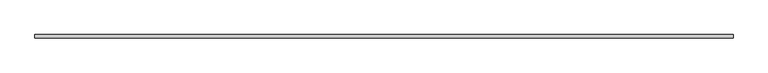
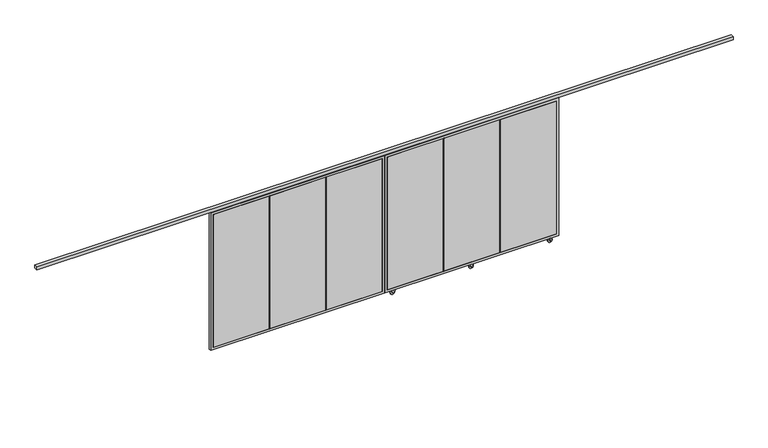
"""IFC4 building model written with IfcOpenShell, lengths in millimetres: furniture geometry, H01 Portón corredizo : H01 Porton corredizo 721x315."""

import ifcopenshell
import ifcopenshell.guid

model = None  # the IFC model being written
_history = None  # IfcOwnerHistory: only IFC2X3 demands one
_inside = {}  # id of a spatial element -> (the spatial element, [elements in it])
_under = {}  # id of a project, library or spatial element -> (it, [spatial elements below it])
_declared = {}  # id of a project -> (the project, [libraries it declares])
_typed = {}  # id of a type object -> (the type object, [elements of that type])
_made_of = {}  # id of a material, layer set ... -> (it, [elements and type objects made of it])


def new_model(schema):
    """Start an empty IFC model of exactly this schema.

    Asked for "IFC4X3", IfcOpenShell would pick the latest addendum, in which some entities
    have other attributes; the version numbers below select the first issue.
    IFC2X3 requires an IfcOwnerHistory on every rooted entity: one is made here for all.
    """
    global model, _history
    if schema == "IFC4X3":
        model = ifcopenshell.file(schema_version=(4, 3, 0, 0))
    else:
        model = ifcopenshell.file(schema=schema)
    _inside.clear()
    _under.clear()
    _declared.clear()
    _typed.clear()
    _made_of.clear()
    _history = None
    if model.schema == "IFC2X3":
        org = make("IfcOrganization", Name="unknown")
        user = make(
            "IfcPersonAndOrganization",
            ThePerson=make("IfcPerson", FamilyName="unknown"),
            TheOrganization=org,
        )
        app = make(
            "IfcApplication",
            ApplicationDeveloper=org,
            Version="unknown",
            ApplicationFullName="unknown",
            ApplicationIdentifier="unknown",
        )
        _history = make(
            "IfcOwnerHistory",
            OwningUser=user,
            OwningApplication=app,
            ChangeAction="ADDED",
            CreationDate=0,
        )
    return model


def make(cls, **values):
    """One entity of the class cls with the attributes given. An attribute that is None is left unset."""
    return model.create_entity(
        cls, **{name: value for name, value in values.items() if value is not None}
    )


def rooted(cls, **values):
    """An entity with a GlobalId (a new one), such as an element, a storey or a relation."""
    return make(cls, GlobalId=ifcopenshell.guid.new(), OwnerHistory=_history, **values)


def si_unit(unit_type, name, prefix=None):
    """IfcSIUnit, for example si_unit("LENGTHUNIT", "METRE", prefix="MILLI")."""
    return make("IfcSIUnit", UnitType=unit_type, Prefix=prefix, Name=name)


def assignment(units):
    """IfcUnitAssignment: the units of a project."""
    return None if units is None else make("IfcUnitAssignment", Units=units)


def point(xyz):
    """IfcCartesianPoint."""
    return None if xyz is None else make("IfcCartesianPoint", Coordinates=xyz)


def direction(xyz):
    """IfcDirection."""
    return None if xyz is None else make("IfcDirection", DirectionRatios=xyz)


def frame(location, z_axis=None, x_axis=None):
    """IfcAxis2Placement3D, a coordinate frame: its origin and axes. An axis left out is left unset."""
    return make(
        "IfcAxis2Placement3D",
        Location=point(location),
        Axis=direction(z_axis),
        RefDirection=direction(x_axis),
    )


def frame_2d(location, x_axis=None):
    """IfcAxis2Placement2D, a coordinate frame in the plane: its origin and x axis."""
    return make(
        "IfcAxis2Placement2D", Location=point(location), RefDirection=direction(x_axis)
    )


def origin():
    """The frame at (0, 0, 0) with its axes left unset."""
    return frame((0.0, 0.0, 0.0))


def place(relative_to, where):
    """IfcLocalPlacement: puts the frame where relative to a parent placement (None: the world)."""
    return make(
        "IfcLocalPlacement", PlacementRelTo=relative_to, RelativePlacement=where
    )


def context(
    kind, dimensions, precision=None, world=None, true_north=None, identifier=None
):
    """IfcGeometricRepresentationContext, for example the 3D "Model" context."""
    return make(
        "IfcGeometricRepresentationContext",
        ContextIdentifier=identifier,
        ContextType=kind,
        CoordinateSpaceDimension=dimensions,
        Precision=precision,
        WorldCoordinateSystem=world,
        TrueNorth=true_north,
    )


def project(units=None, contexts=None):
    """IfcProject with its units and contexts."""
    return rooted(
        "IfcProject",
        Name="project",
        RepresentationContexts=contexts,
        UnitsInContext=assignment(units),
    )


def spatial(cls, under=None, at=None, **own):
    """A site, building, storey or space (cls), placed at a placement, below another one or the project."""
    s = rooted(cls, ObjectPlacement=at, **own)
    if under is not None:
        _under.setdefault(under.id(), (under, []))[1].append(s)
    return s


def polyline(points):
    """IfcPolyline through the points."""
    return make("IfcPolyline", Points=[point(p) for p in points])


def circle_curve(where, radius):
    """IfcCircle in the frame where."""
    return make("IfcCircle", Position=where, Radius=radius)


def trimmed(basis, trim1, trim2, sense, master):
    """IfcTrimmedCurve: the piece of a basis curve between two trims."""
    return make(
        "IfcTrimmedCurve",
        BasisCurve=basis,
        Trim1=trim1,
        Trim2=trim2,
        SenseAgreement=sense,
        MasterRepresentation=master,
    )


def segment(curve, same_sense, transition):
    """IfcCompositeCurveSegment."""
    return make(
        "IfcCompositeCurveSegment",
        Transition=transition,
        SameSense=same_sense,
        ParentCurve=curve,
    )


def composite_curve(segments, self_intersect=None):
    """IfcCompositeCurve: segments joined end to end."""
    return make("IfcCompositeCurve", Segments=segments, SelfIntersect=self_intersect)


def outline(outer, holes=None, kind="AREA"):
    """IfcArbitraryClosedProfileDef: a profile drawn as a closed curve; with holes, ...WithVoids."""
    if holes is None:
        return make("IfcArbitraryClosedProfileDef", ProfileType=kind, OuterCurve=outer)
    return make(
        "IfcArbitraryProfileDefWithVoids",
        ProfileType=kind,
        OuterCurve=outer,
        InnerCurves=holes,
    )


def extrude(swept, where, along, depth):
    """IfcExtrudedAreaSolid: the profile swept, set in the frame where, extruded along a direction by depth."""
    return make(
        "IfcExtrudedAreaSolid",
        SweptArea=swept,
        Position=where,
        ExtrudedDirection=direction(along),
        Depth=depth,
    )


def shape(context_of_items, identifier, shape_type, items):
    """IfcShapeRepresentation: the items that make up one representation, for example the "Body"."""
    return make(
        "IfcShapeRepresentation",
        ContextOfItems=context_of_items,
        RepresentationIdentifier=identifier,
        RepresentationType=shape_type,
        Items=items,
    )


def source(mapping_origin, context_of_items, identifier, shape_type, items):
    """IfcRepresentationMap: a shape defined once, which mapped items show again and again."""
    return make(
        "IfcRepresentationMap",
        MappingOrigin=mapping_origin,
        MappedRepresentation=shape(context_of_items, identifier, shape_type, items),
    )


def transform(
    local_origin,
    x_axis=None,
    y_axis=None,
    z_axis=None,
    scale=None,
    scale2=None,
    scale3=None,
    uniform=True,
):
    """IfcCartesianTransformationOperator3D, or its non-uniform kind. x_axis, y_axis, z_axis: its Axis1, 2, 3."""
    if uniform:
        return make(
            "IfcCartesianTransformationOperator3D",
            Axis1=direction(x_axis),
            Axis2=direction(y_axis),
            LocalOrigin=point(local_origin),
            Scale=scale,
            Axis3=direction(z_axis),
        )
    return make(
        "IfcCartesianTransformationOperator3DnonUniform",
        Axis1=direction(x_axis),
        Axis2=direction(y_axis),
        LocalOrigin=point(local_origin),
        Scale=scale,
        Axis3=direction(z_axis),
        Scale2=scale2,
        Scale3=scale3,
    )


def mapped(mapping_source, mapping_target):
    """IfcMappedItem: shows the shape of a source again, moved by a transform."""
    return make(
        "IfcMappedItem", MappingSource=mapping_source, MappingTarget=mapping_target
    )


def made_of(thing, what):
    """Note that an element or type object is made of a material, layer set ...; save() writes the relation."""
    if what is not None:
        _made_of.setdefault(what.id(), (what, []))[1].append(thing)
    return thing


def element(
    cls,
    number,
    at=None,
    inside=None,
    cuts=None,
    type_object=None,
    material=None,
    context=None,
    identifier="Body",
    shape_type=None,
    held_by="IfcProductDefinitionShape",
    body=None,
    shapes=None,
    **own,
):
    """One element of the class cls, such as IfcWall. Its Tag is "e" and its number.

    at: its placement. inside: the storey or other place that contains it. cuts: it is an
    opening in that element (IfcRelVoidsElement). A single representation is given by context,
    identifier, shape_type and body (its items); several are given by shapes. held_by: the class
    of the entity that holds the representations. save() writes the other relations.
    """
    e = rooted(cls, Tag="e%d" % number, ObjectPlacement=at, **own)
    if body is not None:
        shapes = [shape(context, identifier, shape_type, body)]
    if shapes is not None:
        e.Representation = make(held_by, Representations=shapes)
    if inside is not None:
        _inside.setdefault(inside.id(), (inside, []))[1].append(e)
    if cuts is not None:
        rooted(
            "IfcRelVoidsElement", RelatingBuildingElement=cuts, RelatedOpeningElement=e
        )
    if type_object is not None:
        _typed.setdefault(type_object.id(), (type_object, []))[1].append(e)
    return made_of(e, material)


def aggregate(whole, parts):
    """IfcRelAggregates: a whole, such as a stair, and the parts it consists of."""
    return rooted("IfcRelAggregates", RelatingObject=whole, RelatedObjects=parts)


def save(model, path):
    """Write the relations noted so far, then the file.

    IfcRelAggregates (storeys below a building ...), IfcRelContainedInSpatialStructure (elements
    in a storey), IfcRelDefinesByType, IfcRelAssociatesMaterial and IfcRelDeclares: one each for
    every whole, place, type object, material and project.
    """
    for whole, parts in _under.values():
        aggregate(whole, parts)
    for where, things in _inside.values():
        rooted(
            "IfcRelContainedInSpatialStructure",
            RelatedElements=things,
            RelatingStructure=where,
        )
    for kind, things in _typed.values():
        rooted("IfcRelDefinesByType", RelatedObjects=things, RelatingType=kind)
    for what, things in _made_of.values():
        rooted("IfcRelAssociatesMaterial", RelatedObjects=things, RelatingMaterial=what)
    for by, libraries in _declared.values():
        rooted("IfcRelDeclares", RelatingContext=by, RelatedDefinitions=libraries)
    model.write(path)


def furniture_17f0d0bd(model_context):
    return source(origin(), model_context, "Body", "SweptSolid", [
        extrude(outline(composite_curve([segment(polyline([(105.0, -1300.2996736), (45.0, -1300.2996736)]), True, "CONTINUOUS"), segment(trimmed(circle_curve(frame_2d((45.0, -1290.2996736)), 10.0), [point((45.0, -1300.2996736))], [point((38.2006885, -1282.966914))], False, "CARTESIAN"), True, "CONTINUOUS"), segment(polyline([(38.2006885, -1282.966914), (95.0, -1230.2996736), (105.0, -1230.2996736), (105.0, -1300.2996736)]), True, "CONTINUOUS")], self_intersect=False)), frame((0.0, -572.0, 0.0), z_axis=(0.0, 1.0, 0.0), x_axis=(0.0, 0.0, 1.0)), (0.0, 0.0, 1.0), 3.0),
        extrude(outline(composite_curve([segment(polyline([(105.0, -1300.2996736), (45.0, -1300.2996736)]), True, "CONTINUOUS"), segment(trimmed(circle_curve(frame_2d((45.0, -1290.2996736)), 10.0), [point((45.0, -1300.2996736))], [point((38.2006885, -1282.966914))], False, "CARTESIAN"), True, "CONTINUOUS"), segment(polyline([(38.2006885, -1282.966914), (95.0, -1230.2996736), (105.0, -1230.2996736), (105.0, -1300.2996736)]), True, "CONTINUOUS")], self_intersect=False)), frame((0.0, -599.0, 0.0), z_axis=(0.0, 1.0, 0.0), x_axis=(0.0, 0.0, 1.0)), (0.0, 0.0, 1.0), 3.0),
        extrude(outline(composite_curve([segment(trimmed(circle_curve(frame_2d((45.0, -1290.2996736)), 45.0), [point((45.0, -1335.2996736))], [point((45.0, -1245.2996736))], False, "CARTESIAN"), True, "CONTINUOUS"), segment(trimmed(circle_curve(frame_2d((45.0, -1290.2996736)), 45.0), [point((45.0, -1245.2996736))], [point((45.0, -1335.2996736))], False, "CARTESIAN"), True, "CONTINUOUS")], self_intersect=False)), frame((0.0, -589.0, 0.0), z_axis=(0.0, 1.0, 0.0), x_axis=(0.0, 0.0, 1.0)), (0.0, 0.0, 1.0), 10.0),
        extrude(outline(polyline([(-2835.2996736, -572.0), (-2835.2996736, -596.0), (-2905.2996736, -596.0), (-2905.2996736, -572.0), (-2835.2996736, -572.0)])), frame((0.0, 0.0, 102.0), z_axis=(0.0, 0.0, 1.0), x_axis=(1.0, 0.0, 0.0)), (0.0, 0.0, 1.0), 3.0),
        extrude(outline(composite_curve([segment(polyline([(105.0, -2905.2996736), (45.0, -2905.2996736)]), True, "CONTINUOUS"), segment(trimmed(circle_curve(frame_2d((45.0, -2895.2996736)), 10.0), [point((45.0, -2905.2996736))], [point((38.2006885, -2887.966914))], False, "CARTESIAN"), True, "CONTINUOUS"), segment(polyline([(38.2006885, -2887.966914), (95.0, -2835.2996736), (105.0, -2835.2996736), (105.0, -2905.2996736)]), True, "CONTINUOUS")], self_intersect=False)), frame((0.0, -572.0, 0.0), z_axis=(0.0, 1.0, 0.0), x_axis=(0.0, 0.0, 1.0)), (0.0, 0.0, 1.0), 3.0),
        extrude(outline(composite_curve([segment(polyline([(105.0, -2905.2996736), (45.0, -2905.2996736)]), True, "CONTINUOUS"), segment(trimmed(circle_curve(frame_2d((45.0, -2895.2996736)), 10.0), [point((45.0, -2905.2996736))], [point((38.2006885, -2887.966914))], False, "CARTESIAN"), True, "CONTINUOUS"), segment(polyline([(38.2006885, -2887.966914), (95.0, -2835.2996736), (105.0, -2835.2996736), (105.0, -2905.2996736)]), True, "CONTINUOUS")], self_intersect=False)), frame((0.0, -599.0, 0.0), z_axis=(0.0, 1.0, 0.0), x_axis=(0.0, 0.0, 1.0)), (0.0, 0.0, 1.0), 3.0),
        extrude(outline(composite_curve([segment(trimmed(circle_curve(frame_2d((45.0, -2895.2996736)), 45.0), [point((45.0, -2940.2996736))], [point((45.0, -2850.2996736))], False, "CARTESIAN"), True, "CONTINUOUS"), segment(trimmed(circle_curve(frame_2d((45.0, -2895.2996736)), 45.0), [point((45.0, -2850.2996736))], [point((45.0, -2940.2996736))], False, "CARTESIAN"), True, "CONTINUOUS")], self_intersect=False)), frame((0.0, -589.0, 0.0), z_axis=(0.0, 1.0, 0.0), x_axis=(0.0, 0.0, 1.0)), (0.0, 0.0, 1.0), 10.0),
        extrude(outline(polyline([(374.7003264, -572.0), (374.7003264, -596.0), (304.7003264, -596.0), (304.7003264, -572.0), (374.7003264, -572.0)])), frame((0.0, 0.0, 102.0), z_axis=(0.0, 0.0, 1.0), x_axis=(1.0, 0.0, 0.0)), (0.0, 0.0, 1.0), 3.0),
        extrude(outline(composite_curve([segment(polyline([(105.0, 304.7003264), (45.0, 304.7003264)]), True, "CONTINUOUS"), segment(trimmed(circle_curve(frame_2d((45.0, 314.7003264)), 10.0), [point((45.0, 304.7003264))], [point((38.2006885, 322.033086))], False, "CARTESIAN"), True, "CONTINUOUS"), segment(polyline([(38.2006885, 322.033086), (95.0, 374.7003264), (105.0, 374.7003264), (105.0, 304.7003264)]), True, "CONTINUOUS")], self_intersect=False)), frame((0.0, -572.0, 0.0), z_axis=(0.0, 1.0, 0.0), x_axis=(0.0, 0.0, 1.0)), (0.0, 0.0, 1.0), 3.0),
        extrude(outline(composite_curve([segment(polyline([(105.0, 304.7003264), (45.0, 304.7003264)]), True, "CONTINUOUS"), segment(trimmed(circle_curve(frame_2d((45.0, 314.7003264)), 10.0), [point((45.0, 304.7003264))], [point((38.2006885, 322.033086))], False, "CARTESIAN"), True, "CONTINUOUS"), segment(polyline([(38.2006885, 322.033086), (95.0, 374.7003264), (105.0, 374.7003264), (105.0, 304.7003264)]), True, "CONTINUOUS")], self_intersect=False)), frame((0.0, -599.0, 0.0), z_axis=(0.0, 1.0, 0.0), x_axis=(0.0, 0.0, 1.0)), (0.0, 0.0, 1.0), 3.0),
        extrude(outline(composite_curve([segment(trimmed(circle_curve(frame_2d((45.0, 314.7003264)), 45.0), [point((45.0, 269.7003264))], [point((45.0, 359.7003264))], False, "CARTESIAN"), True, "CONTINUOUS"), segment(trimmed(circle_curve(frame_2d((45.0, 314.7003264)), 45.0), [point((45.0, 359.7003264))], [point((45.0, 269.7003264))], False, "CARTESIAN"), True, "CONTINUOUS")], self_intersect=False)), frame((0.0, -589.0, 0.0), z_axis=(0.0, 1.0, 0.0), x_axis=(0.0, 0.0, 1.0)), (0.0, 0.0, 1.0), 10.0),
        extrude(outline(polyline([(4034.7003264, -619.0), (-10165.2996736, -619.0), (-10165.2996736, -549.0), (4034.7003264, -549.0), (4034.7003264, -619.0)])), frame((0.0, 0.0, 3090.0), z_axis=(0.0, 0.0, 1.0), x_axis=(1.0, 0.0, 0.0)), (0.0, 0.0, 1.0), 60.0),
        extrude(outline(polyline([(3070.0, -3065.2996736), (3070.0, -6615.2996736), (100.0, -6615.2996736), (100.0, -3065.2996736), (3070.0, -3065.2996736)]), holes=[polyline([(3020.0, -3115.2996736), (150.0, -3115.2996736), (150.0, -6565.2996736), (3020.0, -6565.2996736), (3020.0, -3115.2996736)])]), frame((0.0, -609.0, 0.0), z_axis=(0.0, 1.0, 0.0), x_axis=(0.0, 0.0, 1.0)), (0.0, 0.0, 1.0), 50.0),
        extrude(outline(polyline([(-5415.2996736, -609.0), (-5418.2996736, -609.0), (-5418.2996736, -559.0), (-5415.2996736, -559.0), (-5415.2996736, -609.0)])), frame((0.0, 0.0, 150.0), z_axis=(0.0, 0.0, 1.0), x_axis=(1.0, 0.0, 0.0)), (0.0, 0.0, 1.0), 2870.0),
        extrude(outline(polyline([(-5412.2996736, -609.0), (-5415.2996736, -609.0), (-5415.2996736, -559.0), (-5412.2996736, -559.0), (-5412.2996736, -609.0)])), frame((0.0, 0.0, 150.0), z_axis=(0.0, 0.0, 1.0), x_axis=(1.0, 0.0, 0.0)), (0.0, 0.0, 1.0), 2870.0),
        extrude(outline(polyline([(-4265.2996736, -609.0), (-4268.2996736, -609.0), (-4268.2996736, -559.0), (-4265.2996736, -559.0), (-4265.2996736, -609.0)])), frame((0.0, 0.0, 150.0), z_axis=(0.0, 0.0, 1.0), x_axis=(1.0, 0.0, 0.0)), (0.0, 0.0, 1.0), 2870.0),
        extrude(outline(polyline([(-4262.2996736, -609.0), (-4265.2996736, -609.0), (-4265.2996736, -559.0), (-4262.2996736, -559.0), (-4262.2996736, -609.0)])), frame((0.0, 0.0, 150.0), z_axis=(0.0, 0.0, 1.0), x_axis=(1.0, 0.0, 0.0)), (0.0, 0.0, 1.0), 2870.0),
        extrude(outline(polyline([(-5418.2996736, -609.0), (-6565.2996736, -609.0), (-6565.2996736, -606.0), (-5418.2996736, -606.0), (-5418.2996736, -609.0)])), frame((0.0, 0.0, 150.0), z_axis=(0.0, 0.0, 1.0), x_axis=(1.0, 0.0, 0.0)), (0.0, 0.0, 1.0), 2870.0),
        extrude(outline(polyline([(-4268.2996736, -609.0), (-5412.3443967, -609.0), (-5412.3443967, -606.0), (-4268.2996736, -606.0), (-4268.2996736, -609.0)])), frame((0.0, 0.0, 150.0), z_axis=(0.0, 0.0, 1.0), x_axis=(1.0, 0.0, 0.0)), (0.0, 0.0, 1.0), 2870.0),
        extrude(outline(polyline([(-3115.2996736, -609.0), (-4262.2996736, -609.0), (-4262.2996736, -606.0), (-3115.2996736, -606.0), (-3115.2996736, -609.0)])), frame((0.0, 0.0, 150.0), z_axis=(0.0, 0.0, 1.0), x_axis=(1.0, 0.0, 0.0)), (0.0, 0.0, 1.0), 2870.0),
        extrude(outline(polyline([(3070.0, 484.7003264), (3070.0, -3065.2996736), (100.0, -3065.2996736), (100.0, 484.7003264), (3070.0, 484.7003264)]), holes=[polyline([(3020.0, 434.7003264), (150.0, 434.7003264), (150.0, -3015.2996736), (3020.0, -3015.2996736), (3020.0, 434.7003264)])]), frame((0.0, -609.0, 0.0), z_axis=(0.0, 1.0, 0.0), x_axis=(0.0, 0.0, 1.0)), (0.0, 0.0, 1.0), 50.0),
        extrude(outline(polyline([(-1865.2996736, -609.0), (-1868.2996736, -609.0), (-1868.2996736, -559.0), (-1865.2996736, -559.0), (-1865.2996736, -609.0)])), frame((0.0, 0.0, 150.0), z_axis=(0.0, 0.0, 1.0), x_axis=(1.0, 0.0, 0.0)), (0.0, 0.0, 1.0), 2870.0),
        extrude(outline(polyline([(-1862.3443967, -609.0), (-1865.2996736, -609.0), (-1865.2996736, -559.0), (-1862.3443967, -559.0), (-1862.3443967, -609.0)])), frame((0.0, 0.0, 150.0), z_axis=(0.0, 0.0, 1.0), x_axis=(1.0, 0.0, 0.0)), (0.0, 0.0, 1.0), 2870.0),
        extrude(outline(polyline([(-715.2996736, -609.0), (-718.2996736, -609.0), (-718.2996736, -559.0), (-715.2996736, -559.0), (-715.2996736, -609.0)])), frame((0.0, 0.0, 150.0), z_axis=(0.0, 0.0, 1.0), x_axis=(1.0, 0.0, 0.0)), (0.0, 0.0, 1.0), 2870.0),
        extrude(outline(polyline([(-712.2996736, -609.0), (-715.2996736, -609.0), (-715.2996736, -559.0), (-712.2996736, -559.0), (-712.2996736, -609.0)])), frame((0.0, 0.0, 150.0), z_axis=(0.0, 0.0, 1.0), x_axis=(1.0, 0.0, 0.0)), (0.0, 0.0, 1.0), 2870.0),
        extrude(outline(polyline([(-1868.2996736, -609.0), (-3015.2996736, -609.0), (-3015.2996736, -606.0), (-1868.2996736, -606.0), (-1868.2996736, -609.0)])), frame((0.0, 0.0, 150.0), z_axis=(0.0, 0.0, 1.0), x_axis=(1.0, 0.0, 0.0)), (0.0, 0.0, 1.0), 2870.0),
        extrude(outline(polyline([(-718.2996736, -609.0), (-1862.3443967, -609.0), (-1862.3443967, -606.0), (-718.2996736, -606.0), (-718.2996736, -609.0)])), frame((0.0, 0.0, 150.0), z_axis=(0.0, 0.0, 1.0), x_axis=(1.0, 0.0, 0.0)), (0.0, 0.0, 1.0), 2870.0),
        extrude(outline(polyline([(434.7003264, -609.0), (-712.2996736, -609.0), (-712.2996736, -606.0), (434.7003264, -606.0), (434.7003264, -609.0)])), frame((0.0, 0.0, 150.0), z_axis=(0.0, 0.0, 1.0), x_axis=(1.0, 0.0, 0.0)), (0.0, 0.0, 1.0), 2870.0),
    ])


if __name__ == "__main__":
    model = new_model("IFC4")
    model_context = context("Model", 3, world=origin())
    ifc_project = project(units=[si_unit("LENGTHUNIT", "METRE", prefix="MILLI")], contexts=[model_context])
    site = spatial("IfcSite", under=ifc_project)
    building = spatial("IfcBuilding", under=site)
    placement = place(None, origin())
    furniture_shape = furniture_17f0d0bd(model_context)
    element("IfcFurniture", 1, ObjectType="H01 Portón corredizo : H01 Porton corredizo 721x315", at=placement, inside=building, context=model_context, shape_type="MappedRepresentation", body=[
        mapped(furniture_shape, transform((0.0, 0.0, 0.0), x_axis=(1.0, 0.0, 0.0), y_axis=(0.0, 1.0, 0.0), z_axis=(0.0, 0.0, 1.0))),
    ])
    save(model, "model.ifc")
